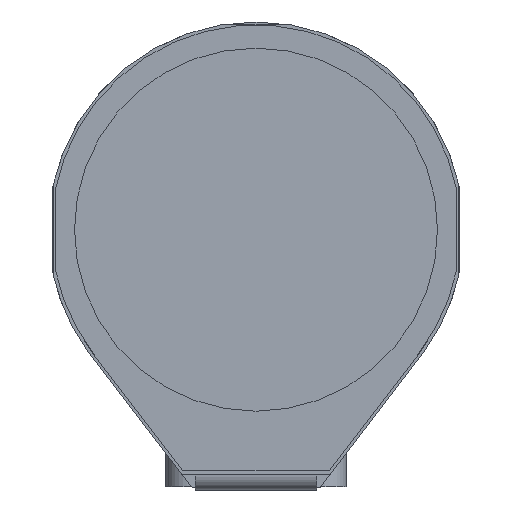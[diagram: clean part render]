
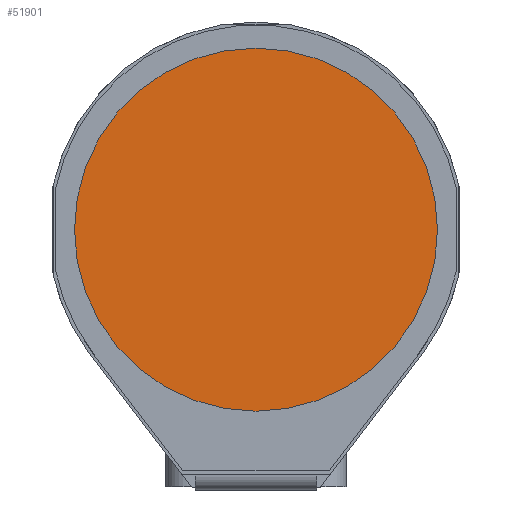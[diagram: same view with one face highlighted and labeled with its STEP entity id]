
A CAD part, top view. The second image highlights one B-rep face of the part: STEP entity #51901.
In plain terms, the highlighted planar face has unit normal (0, 0, 1).
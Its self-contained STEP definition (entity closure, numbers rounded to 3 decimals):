
#51356=CARTESIAN_POINT('',(4.319,10.131,1.79));
#51357=DIRECTION('',(0.,0.,1.));
#51358=DIRECTION('',(1.,0.,0.));
#51359=AXIS2_PLACEMENT_3D('',#51356,#51357,#51358);
#51364=CARTESIAN_POINT('',(4.319,10.131,1.79));
#51365=DIRECTION('',(0.,0.,1.));
#51366=DIRECTION('',(-1.,0.,0.));
#51367=AXIS2_PLACEMENT_3D('',#51364,#51365,#51366);
#51727=CARTESIAN_POINT('',(13.319,10.131,1.79));
#51728=CARTESIAN_POINT('',(-4.681,10.131,1.79));
#51729=VERTEX_POINT('',#51727);
#51730=VERTEX_POINT('',#51728);
#51892=CARTESIAN_POINT('',(0.,0.,1.79));
#51893=DIRECTION('',(0.,0.,1.));
#51894=DIRECTION('',(1.,0.,0.));
#51895=AXIS2_PLACEMENT_3D('',#51892,#51893,#51894);
#51896=PLANE('',#51895);
#51897=ORIENTED_EDGE('',*,*,#51871,.F.);
#51898=ORIENTED_EDGE('',*,*,#51887,.F.);
#51899=EDGE_LOOP('',(#51897,#51898));
#51900=FACE_OUTER_BOUND('',#51899,.F.);
#51901=ADVANCED_FACE('',(#51900),#51896,.T.);
#51360=CIRCLE('',#51359,9.);
#51368=CIRCLE('',#51367,9.);
#51871=EDGE_CURVE('',#51729,#51730,#51360,.T.);
#51887=EDGE_CURVE('',#51730,#51729,#51368,.T.);
